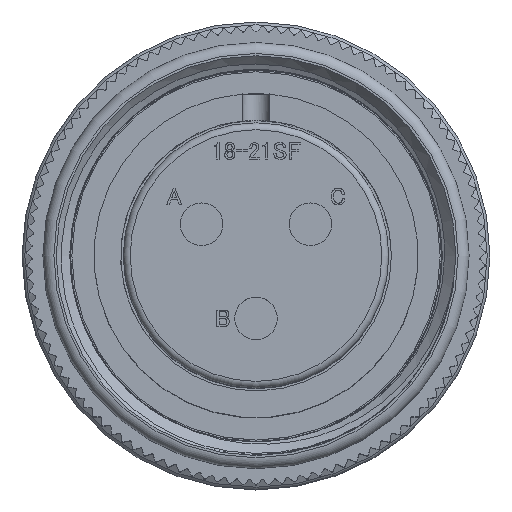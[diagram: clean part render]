
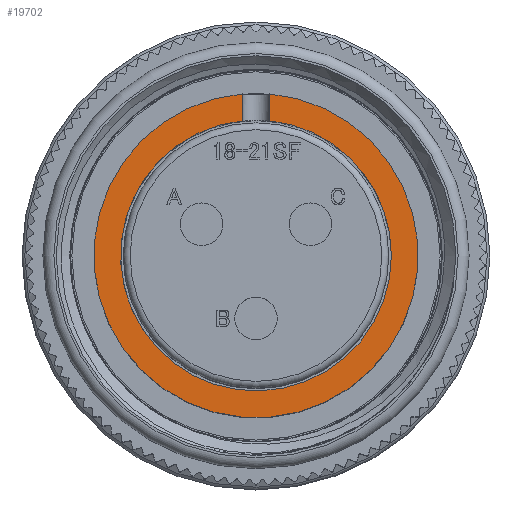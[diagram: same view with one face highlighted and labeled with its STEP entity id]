
A CAD part, top view. The second image highlights one B-rep face of the part: STEP entity #19702.
In plain terms, the highlighted planar face has unit normal (0, 0, 1).
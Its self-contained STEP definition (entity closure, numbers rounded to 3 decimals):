
#830 = LINE ( 'NONE', #66496, #36157 ) ;
#2063 = AXIS2_PLACEMENT_3D ( 'NONE', #62196, #13803, #57050 ) ;
#3951 = VERTEX_POINT ( 'NONE', #4880 ) ;
#4064 = EDGE_CURVE ( 'NONE', #69440, #34010, #54603, .T. ) ;
#4880 = CARTESIAN_POINT ( 'NONE',  ( -1., 9.809, 0. ) ) ;
#11720 = ORIENTED_EDGE ( 'NONE', *, *, #23976, .F. ) ;
#13803 = DIRECTION ( 'NONE',  ( 0., 0., 1. ) ) ;
#18504 = CARTESIAN_POINT ( 'NONE',  ( 1., 11.768, 0. ) ) ;
#19702 = ADVANCED_FACE ( 'NONE', ( #44081 ), #67156, .F. ) ;
#19835 = DIRECTION ( 'NONE',  ( -1., 0., 0. ) ) ;
#20280 = DIRECTION ( 'NONE',  ( 0., 0., -1. ) ) ;
#23976 = EDGE_CURVE ( 'NONE', #3951, #57088, #26717, .T. ) ;
#26717 = CIRCLE ( 'NONE', #2063, 9.86 ) ;
#29897 = ORIENTED_EDGE ( 'NONE', *, *, #31633, .F. ) ;
#30171 = ORIENTED_EDGE ( 'NONE', *, *, #57654, .F. ) ;
#31633 = EDGE_CURVE ( 'NONE', #69440, #3951, #41766, .T. ) ;
#32122 = DIRECTION ( 'NONE',  ( 0., 0., 1. ) ) ;
#34010 = VERTEX_POINT ( 'NONE', #18504 ) ;
#36157 = VECTOR ( 'NONE', #50504, 1000. ) ;
#38105 = AXIS2_PLACEMENT_3D ( 'NONE', #43163, #32122, #42698 ) ;
#38788 = CARTESIAN_POINT ( 'NONE',  ( -1., 11.768, 0. ) ) ;
#41766 = LINE ( 'NONE', #45277, #50224 ) ;
#42416 = AXIS2_PLACEMENT_3D ( 'NONE', #52518, #20280, #19835 ) ;
#42698 = DIRECTION ( 'NONE',  ( 1., 0., 0. ) ) ;
#43163 = CARTESIAN_POINT ( 'NONE',  ( 0., 0., 0. ) ) ;
#43796 = EDGE_LOOP ( 'NONE', ( #68350, #30171, #11720, #29897 ) ) ;
#44081 = FACE_OUTER_BOUND ( 'NONE', #43796, .T. ) ;
#45277 = CARTESIAN_POINT ( 'NONE',  ( -1., 12.223, 0. ) ) ;
#45500 = DIRECTION ( 'NONE',  ( 0., -1., 0. ) ) ;
#50224 = VECTOR ( 'NONE', #45500, 1000. ) ;
#50504 = DIRECTION ( 'NONE',  ( 0., 1., 0. ) ) ;
#52518 = CARTESIAN_POINT ( 'NONE',  ( 0., 9.86, 0. ) ) ;
#54603 = CIRCLE ( 'NONE', #38105, 11.81 ) ;
#56013 = CARTESIAN_POINT ( 'NONE',  ( 1., 9.809, 0. ) ) ;
#57050 = DIRECTION ( 'NONE',  ( 1., 0., 0. ) ) ;
#57088 = VERTEX_POINT ( 'NONE', #56013 ) ;
#57654 = EDGE_CURVE ( 'NONE', #57088, #34010, #830, .T. ) ;
#62196 = CARTESIAN_POINT ( 'NONE',  ( 0., 0., 0. ) ) ;
#66496 = CARTESIAN_POINT ( 'NONE',  ( 1., 12.223, 0. ) ) ;
#67156 = PLANE ( 'NONE',  #42416 ) ;
#68350 = ORIENTED_EDGE ( 'NONE', *, *, #4064, .T. ) ;
#69440 = VERTEX_POINT ( 'NONE', #38788 ) ;
